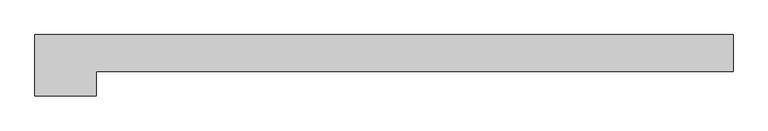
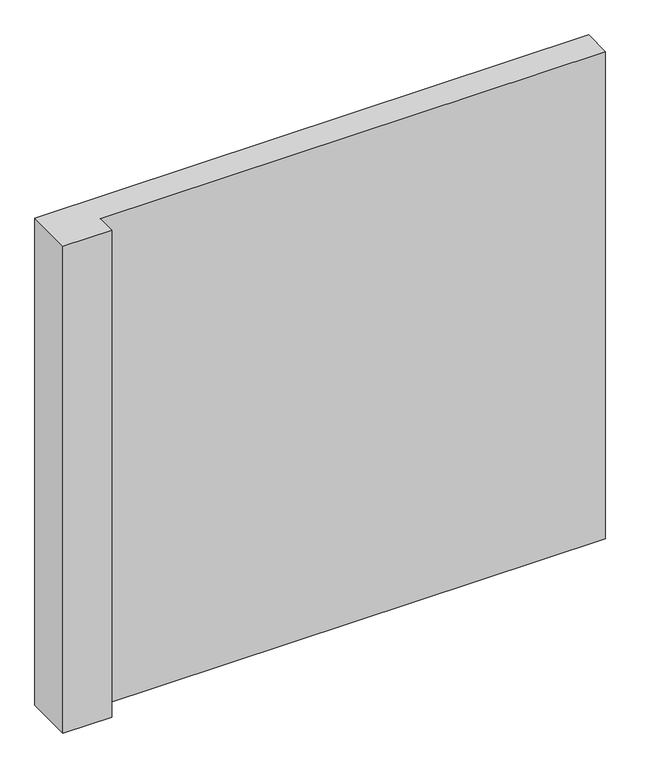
"""IFC4 building model written with IfcOpenShell, lengths in millimetres: column geometry, Columna Estructural Ele : ECO_Ele 25x285x25."""

from ifc_helpers import new_model, si_unit, frame, origin, place, context, project, spatial, polyline, outline, extrude, source, transform, mapped, element, save


def column_3d70835d(model_context):
    return source(origin(), model_context, "Body", "SweptSolid", [
        extrude(outline(polyline([(125.0, -175.0), (-125.0, -175.0), (-125.0, 75.0), (2725.0, 75.0), (2725.0, -75.0), (125.0, -75.0), (125.0, -175.0)])), frame((0.0, 0.0, 8050.0), z_axis=(0.0, 0.0, 1.0), x_axis=(1.0, 0.0, 0.0)), (0.0, 0.0, 1.0), 2650.0),
    ])


if __name__ == "__main__":
    model = new_model("IFC4")
    model_context = context("Model", 3, world=origin())
    ifc_project = project(units=[si_unit("LENGTHUNIT", "METRE", prefix="MILLI")], contexts=[model_context])
    site = spatial("IfcSite", under=ifc_project)
    building = spatial("IfcBuilding", under=site)
    placement = place(None, origin())
    column_shape = column_3d70835d(model_context)
    element("IfcColumn", 1, ObjectType="Columna Estructural Ele : ECO_Ele 25x285x25", at=placement, inside=building, context=model_context, shape_type="MappedRepresentation", body=[
        mapped(column_shape, transform((0.0, 0.0, 0.0), x_axis=(1.0, 0.0, 0.0), y_axis=(0.0, 1.0, 0.0), z_axis=(0.0, 0.0, 1.0))),
    ])
    save(model, "model.ifc")
